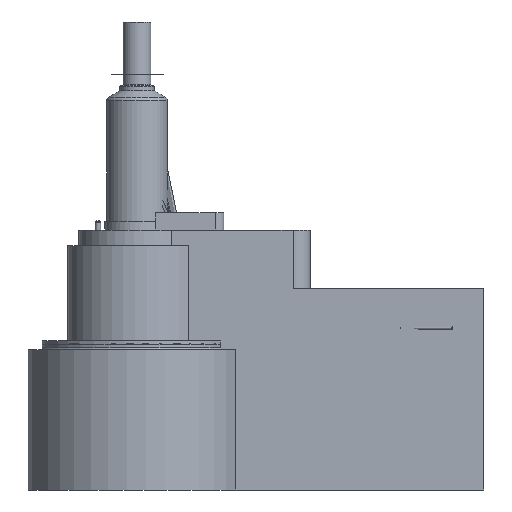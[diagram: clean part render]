
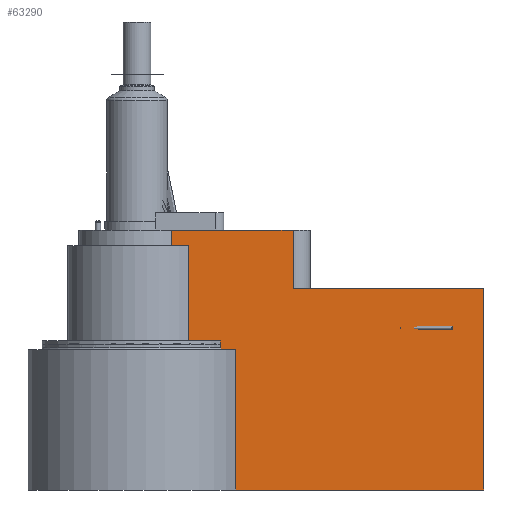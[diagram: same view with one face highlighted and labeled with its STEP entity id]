
A CAD part, front view. The second image highlights one B-rep face of the part: STEP entity #63290.
In plain terms, the highlighted planar face has unit normal (0, -1, 0).
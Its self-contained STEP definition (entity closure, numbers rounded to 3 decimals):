
#995 = EDGE_CURVE ( 'NONE', #35129, #51265, #33826, .T. ) ;
#1697 = DIRECTION ( 'NONE',  ( -1., 0., 0. ) ) ;
#1856 = CARTESIAN_POINT ( 'NONE',  ( 0., -27., 85. ) ) ;
#2288 = ORIENTED_EDGE ( 'NONE', *, *, #30047, .T. ) ;
#3460 = CARTESIAN_POINT ( 'NONE',  ( 56.921, -27., 196.716 ) ) ;
#5448 = CARTESIAN_POINT ( 'NONE',  ( 29.513, -27., 196.716 ) ) ;
#5531 = ORIENTED_EDGE ( 'NONE', *, *, #45391, .T. ) ;
#6124 = VECTOR ( 'NONE', #22054, 1000. ) ;
#6185 = LINE ( 'NONE', #3460, #41286 ) ;
#6494 = ORIENTED_EDGE ( 'NONE', *, *, #12457, .F. ) ;
#8325 = VECTOR ( 'NONE', #34725, 1000. ) ;
#8552 = EDGE_CURVE ( 'NONE', #52334, #36225, #33785, .T. ) ;
#8983 = LINE ( 'NONE', #32653, #24971 ) ;
#9475 = VERTEX_POINT ( 'NONE', #27188 ) ;
#12130 = VERTEX_POINT ( 'NONE', #22443 ) ;
#12457 = EDGE_CURVE ( 'NONE', #27347, #14786, #79038, .T. ) ;
#12710 = EDGE_CURVE ( 'NONE', #9475, #49141, #27758, .T. ) ;
#13230 = VECTOR ( 'NONE', #22204, 1000. ) ;
#14786 = VERTEX_POINT ( 'NONE', #77754 ) ;
#18691 = CARTESIAN_POINT ( 'NONE',  ( 47.917, -27., 85. ) ) ;
#20204 = CARTESIAN_POINT ( 'NONE',  ( 19.831, -27., 196.716 ) ) ;
#20330 = EDGE_CURVE ( 'NONE', #51265, #52334, #75205, .T. ) ;
#21879 = EDGE_CURVE ( 'NONE', #55695, #51072, #65503, .T. ) ;
#22054 = DIRECTION ( 'NONE',  ( 0., 0., 1. ) ) ;
#22204 = DIRECTION ( 'NONE',  ( 0., 0., -1. ) ) ;
#22261 = DIRECTION ( 'NONE',  ( 0., 0., 1. ) ) ;
#22443 = CARTESIAN_POINT ( 'NONE',  ( 48.578, -27., 80. ) ) ;
#22958 = VECTOR ( 'NONE', #81377, 1000. ) ;
#24361 = LINE ( 'NONE', #73475, #78572 ) ;
#24971 = VECTOR ( 'NONE', #22261, 1000. ) ;
#25458 = ORIENTED_EDGE ( 'NONE', *, *, #12710, .F. ) ;
#25614 = ORIENTED_EDGE ( 'NONE', *, *, #8552, .F. ) ;
#25794 = VERTEX_POINT ( 'NONE', #60537 ) ;
#26475 = LINE ( 'NONE', #74853, #8325 ) ;
#27188 = CARTESIAN_POINT ( 'NONE',  ( 200., -27., -1. ) ) ;
#27347 = VERTEX_POINT ( 'NONE', #31761 ) ;
#27758 = LINE ( 'NONE', #63659, #61786 ) ;
#28317 = CARTESIAN_POINT ( 'NONE',  ( 29.513, -27., 85. ) ) ;
#28598 = EDGE_CURVE ( 'NONE', #36225, #55695, #26475, .T. ) ;
#30023 = CARTESIAN_POINT ( 'NONE',  ( 47.917, -27., 196.716 ) ) ;
#30047 = EDGE_CURVE ( 'NONE', #25794, #51072, #36922, .T. ) ;
#31424 = CARTESIAN_POINT ( 'NONE',  ( 47.917, -27., 81. ) ) ;
#31572 = ORIENTED_EDGE ( 'NONE', *, *, #21879, .F. ) ;
#31761 = CARTESIAN_POINT ( 'NONE',  ( 90., -27., 115. ) ) ;
#32653 = CARTESIAN_POINT ( 'NONE',  ( 90., -27., 149. ) ) ;
#32760 = DIRECTION ( 'NONE',  ( -1., 0., 0. ) ) ;
#32864 = DIRECTION ( 'NONE',  ( 0., 0., 1. ) ) ;
#33785 = LINE ( 'NONE', #5448, #58246 ) ;
#33826 = LINE ( 'NONE', #30023, #6124 ) ;
#34725 = DIRECTION ( 'NONE',  ( -1., 0., 0. ) ) ;
#34901 = EDGE_CURVE ( 'NONE', #49141, #83478, #6185, .T. ) ;
#35129 = VERTEX_POINT ( 'NONE', #31424 ) ;
#36225 = VERTEX_POINT ( 'NONE', #59274 ) ;
#36922 = LINE ( 'NONE', #76114, #69961 ) ;
#37755 = CARTESIAN_POINT ( 'NONE',  ( 48.578, -27., 80. ) ) ;
#39786 = FACE_OUTER_BOUND ( 'NONE', #50197, .T. ) ;
#41207 = EDGE_CURVE ( 'NONE', #83478, #12130, #24361, .T. ) ;
#41286 = VECTOR ( 'NONE', #58280, 1000. ) ;
#43939 = CARTESIAN_POINT ( 'NONE',  ( 19.831, -27., 149. ) ) ;
#45388 = VECTOR ( 'NONE', #77126, 1000. ) ;
#45391 = EDGE_CURVE ( 'NONE', #27347, #25794, #8983, .T. ) ;
#49141 = VERTEX_POINT ( 'NONE', #71284 ) ;
#50197 = EDGE_LOOP ( 'NONE', ( #6494, #5531, #2288, #31572, #80426, #25614, #53039, #74000, #85634, #76417, #84898, #25458, #86188 ) ) ;
#51053 = B_SPLINE_CURVE_WITH_KNOTS ( 'NONE', 3,
 ( #64806, #51120, #71342, #37755 ),
 .UNSPECIFIED., .F., .F.,
 ( 4, 4 ),
 ( 0., 0.001 ),
 .UNSPECIFIED. ) ;
#51072 = VERTEX_POINT ( 'NONE', #43939 ) ;
#51120 = CARTESIAN_POINT ( 'NONE',  ( 48.137, -27., 80.667 ) ) ;
#51265 = VERTEX_POINT ( 'NONE', #18691 ) ;
#51429 = DIRECTION ( 'NONE',  ( 0., 0., 1. ) ) ;
#52334 = VERTEX_POINT ( 'NONE', #28317 ) ;
#53039 = ORIENTED_EDGE ( 'NONE', *, *, #20330, .F. ) ;
#54991 = AXIS2_PLACEMENT_3D ( 'NONE', #71635, #85301, #51429 ) ;
#55695 = VERTEX_POINT ( 'NONE', #85546 ) ;
#58246 = VECTOR ( 'NONE', #32864, 1000. ) ;
#58280 = DIRECTION ( 'NONE',  ( 0., 0., 1. ) ) ;
#59274 = CARTESIAN_POINT ( 'NONE',  ( 29.513, -27., 140. ) ) ;
#60021 = LINE ( 'NONE', #62893, #13230 ) ;
#60537 = CARTESIAN_POINT ( 'NONE',  ( 90., -27., 149. ) ) ;
#61369 = CARTESIAN_POINT ( 'NONE',  ( 56.921, -27., 80. ) ) ;
#61786 = VECTOR ( 'NONE', #83838, 1000. ) ;
#62348 = EDGE_CURVE ( 'NONE', #14786, #9475, #60021, .T. ) ;
#62893 = CARTESIAN_POINT ( 'NONE',  ( 200., -27., 149. ) ) ;
#63290 = ADVANCED_FACE ( 'NONE', ( #39786 ), #76426, .F. ) ;
#63389 = EDGE_CURVE ( 'NONE', #35129, #12130, #51053, .T. ) ;
#63659 = CARTESIAN_POINT ( 'NONE',  ( 200., -27., -1. ) ) ;
#64806 = CARTESIAN_POINT ( 'NONE',  ( 47.917, -27., 81. ) ) ;
#65503 = LINE ( 'NONE', #20204, #22958 ) ;
#69961 = VECTOR ( 'NONE', #1697, 1000. ) ;
#70831 = CARTESIAN_POINT ( 'NONE',  ( 200., -27., 115. ) ) ;
#71284 = CARTESIAN_POINT ( 'NONE',  ( 56.921, -27., -1. ) ) ;
#71342 = CARTESIAN_POINT ( 'NONE',  ( 48.358, -27., 80.333 ) ) ;
#71635 = CARTESIAN_POINT ( 'NONE',  ( 200., -27., 149. ) ) ;
#73475 = CARTESIAN_POINT ( 'NONE',  ( 0., -27., 80. ) ) ;
#74000 = ORIENTED_EDGE ( 'NONE', *, *, #995, .F. ) ;
#74853 = CARTESIAN_POINT ( 'NONE',  ( 0., -27., 140. ) ) ;
#75205 = LINE ( 'NONE', #1856, #45388 ) ;
#76114 = CARTESIAN_POINT ( 'NONE',  ( 200., -27., 149. ) ) ;
#76417 = ORIENTED_EDGE ( 'NONE', *, *, #41207, .F. ) ;
#76426 = PLANE ( 'NONE',  #54991 ) ;
#76914 = VECTOR ( 'NONE', #84182, 1000. ) ;
#77126 = DIRECTION ( 'NONE',  ( -1., 0., 0. ) ) ;
#77754 = CARTESIAN_POINT ( 'NONE',  ( 200., -27., 115. ) ) ;
#78572 = VECTOR ( 'NONE', #32760, 1000. ) ;
#79038 = LINE ( 'NONE', #70831, #76914 ) ;
#80426 = ORIENTED_EDGE ( 'NONE', *, *, #28598, .F. ) ;
#81377 = DIRECTION ( 'NONE',  ( 0., 0., 1. ) ) ;
#83478 = VERTEX_POINT ( 'NONE', #61369 ) ;
#83838 = DIRECTION ( 'NONE',  ( -1., 0., 0. ) ) ;
#84182 = DIRECTION ( 'NONE',  ( 1., 0., 0. ) ) ;
#84898 = ORIENTED_EDGE ( 'NONE', *, *, #34901, .F. ) ;
#85301 = DIRECTION ( 'NONE',  ( 0., 1., 0. ) ) ;
#85546 = CARTESIAN_POINT ( 'NONE',  ( 19.831, -27., 140. ) ) ;
#85634 = ORIENTED_EDGE ( 'NONE', *, *, #63389, .T. ) ;
#86188 = ORIENTED_EDGE ( 'NONE', *, *, #62348, .F. ) ;
